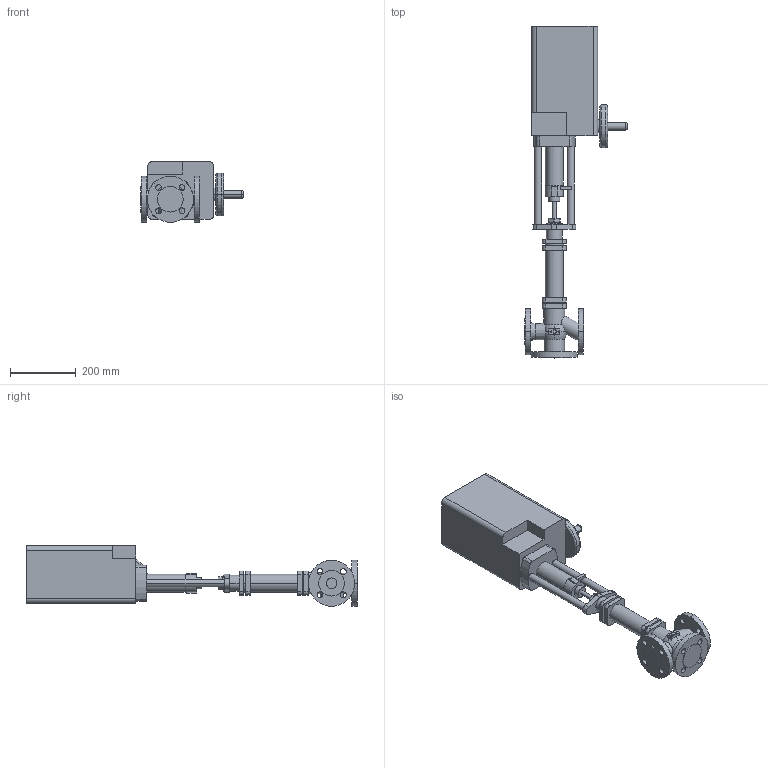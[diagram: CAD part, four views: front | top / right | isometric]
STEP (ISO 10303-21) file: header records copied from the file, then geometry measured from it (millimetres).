
FILE_DESCRIPTION(('OneSpaceDesigner STEP Export'),'2;1');
FILE_NAME('c000002471.stp','2006-09-21T12:00:59',(''),(''),'OneSpace Designer STEP processor for AP214 (Solid Model)','OneSpace Designer 13.20A 18-Aug-2005 (C) CoCreate Software GmbH','');
FILE_SCHEMA(('AUTOMOTIVE_DESIGN { 1 0 10303 214 1 1 1 1 }'));
Length unit declared in the file: millimetre
Products named in the file (2): 1; 2
Bounding box: 311.6 x 1008.5 x 184 mm (x, y, z)
Volume: 14841254.3 mm3; surface area: 667222 mm2
Topology: 2 solids, 2 shells, 235 faces, 583 edges, 386 vertices
Faces by surface type: cylinder 114, plane 105, torus 12, cone 4
Entity records: 6783 total; most frequent: CARTESIAN_POINT 1427, ORIENTED_EDGE 1166, DIRECTION 1019, EDGE_CURVE 583, VERTEX_POINT 386, AXIS2_PLACEMENT_3D 362, VECTOR 295, LINE 295
